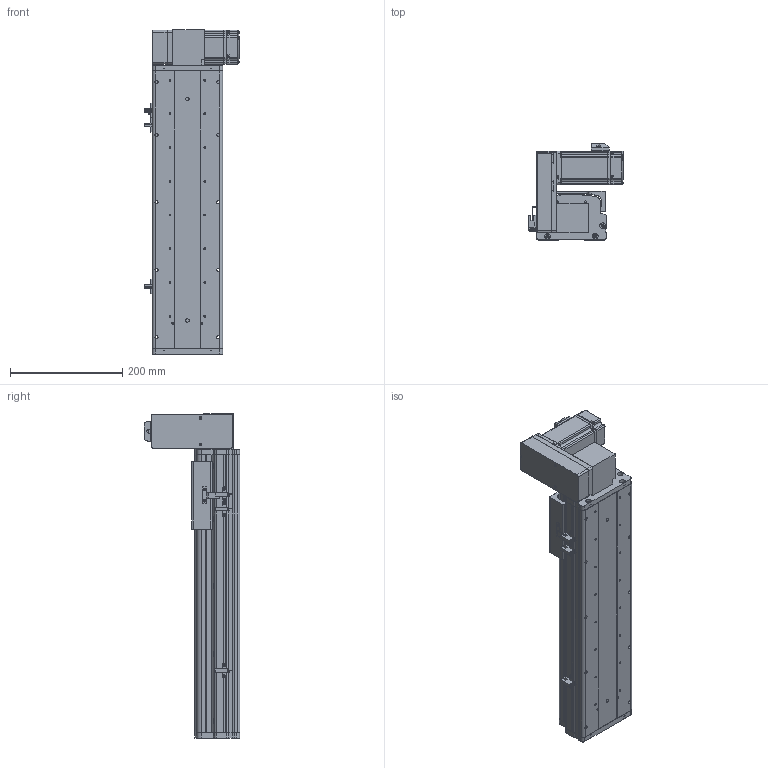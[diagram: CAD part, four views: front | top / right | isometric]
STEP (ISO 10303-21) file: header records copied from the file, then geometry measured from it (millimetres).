
FILE_DESCRIPTION (( 'STEP AP214' ), '1' );
FILE_NAME ('KSD125B-S300-MRU-CM.STEP', '2017-10-21T07:21:59', ( '微软用户' ), ( '微软中国' ), 'SwSTEP 2.0', 'SolidWorks 2014', '' );
FILE_SCHEMA (( 'AUTOMOTIVE_DESIGN' ));
Length unit declared in the file: millimetre
Products named in the file (18): 前端板-125宽模组同步带; 125模组同步带-尾端板1; KSD125模组同步带-滑动座1; KSD125B-S300-MRU-CM; MHMD042G1CA_2_03; 肣翐M4X25樓6; 悵誘欶奻狟殏; HTPA30S3M150_A_H6_a萇儂蚚; HTPA30S3M150_A_H6_a佪裝蚚; 100宽马达安装板连板上下折丝杆同步带; KSD125模组300行程同步带-防尘盖; 125模组300行程同步带-底板; KSD125模组同步带-防撞垫2; 覜茼え68遵圉猾敕; U倰嫖萇假蚾璃; U倰嫖萇EEㄜSX672; KSD125模组同步带-防撞垫1; 100宽马达安装板同步带右
Assembly tree (22 placements, depth 2):
  KSD125B-S300-MRU-CM
    KSD125模组同步带-滑动座1
    125模组同步带-尾端板1
    前端板-125宽模组同步带
    100宽马达安装板同步带右
    KSD125模组同步带-防撞垫1
    U倰嫖萇EEㄜSX672  x3
    U倰嫖萇假蚾璃  x3
    覜茼え68遵圉猾敕
    KSD125模组同步带-防撞垫2
    125模组300行程同步带-底板
    KSD125模组300行程同步带-防尘盖
    100宽马达安装板连板上下折丝杆同步带
    HTPA30S3M150_A_H6_a佪裝蚚
    HTPA30S3M150_A_H6_a萇儂蚚
    悵誘欶奻狟殏
    肣翐M4X25樓6  x2
    MHMD042G1CA_2_03
Bounding box: 168.7 x 170.5 x 577 mm (x, y, z)
Volume: 2058279 mm3; surface area: 734088.1 mm2
Topology: 21 solids, 24 shells, 2247 faces, 6483 edges, 4280 vertices
Faces by surface type: cylinder 1380, plane 736, cone 109, bspline 22
Entity records: 78899 total; most frequent: CARTESIAN_POINT 15595, DIRECTION 12274, ORIENTED_EDGE 11414, EDGE_CURVE 5785, AXIS2_PLACEMENT_3D 4726, VERTEX_POINT 3851, VECTOR 2822, LINE 2822
